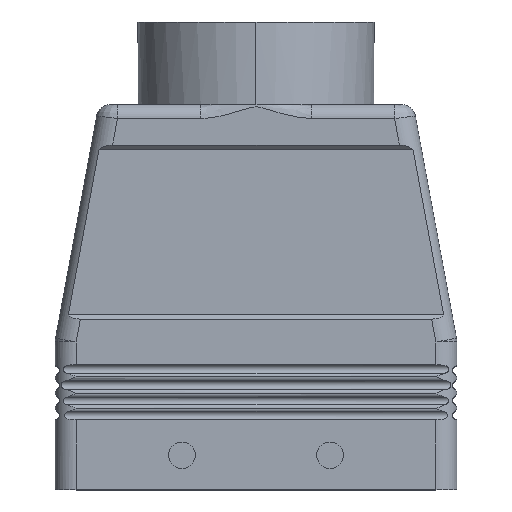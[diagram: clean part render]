
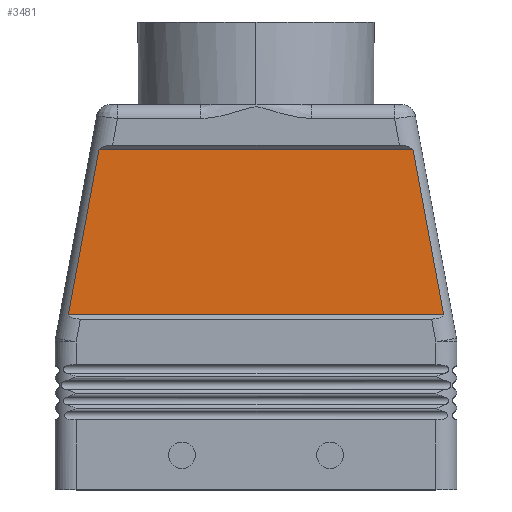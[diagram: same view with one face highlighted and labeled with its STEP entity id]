
A CAD part, top view. The second image highlights one B-rep face of the part: STEP entity #3481.
In plain terms, the highlighted planar face has unit normal (0, 0, 1).
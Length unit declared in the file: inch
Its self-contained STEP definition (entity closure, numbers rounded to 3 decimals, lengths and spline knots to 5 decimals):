
#2052 = VERTEX_POINT ( 'NONE', #8473 ) ;
#2054 = EDGE_CURVE ( 'NONE', #2055, #2052, #8472, .T. ) ;
#2055 = VERTEX_POINT ( 'NONE', #8447 ) ;
#2216 = EDGE_CURVE ( 'NONE', #2217, #2218, #5692, .T. ) ;
#2217 = VERTEX_POINT ( 'NONE', #5688 ) ;
#2218 = VERTEX_POINT ( 'NONE', #5687 ) ;
#3481 = ADVANCED_FACE ( 'NONE', ( #10789 ), #10763, .F. ) ;
#3482 = EDGE_LOOP ( 'NONE', ( #3483, #3484, #3486, #3487 ) ) ;
#3483 = ORIENTED_EDGE ( 'NONE', *, *, #2216, .T. ) ;
#3484 = ORIENTED_EDGE ( 'NONE', *, *, #3485, .T. ) ;
#3485 = EDGE_CURVE ( 'NONE', #2218, #2055, #10764, .T. ) ;
#3486 = ORIENTED_EDGE ( 'NONE', *, *, #2054, .T. ) ;
#3487 = ORIENTED_EDGE ( 'NONE', *, *, #3488, .T. ) ;
#3488 = EDGE_CURVE ( 'NONE', #2052, #2217, #10785, .T. ) ;
#5687 = CARTESIAN_POINT ( 'NONE',  ( -1.34265, 1.25, 0.81645 ) ) ;
#5688 = CARTESIAN_POINT ( 'NONE',  ( -1.12323, 2.435, 0.81645 ) ) ;
#5689 = DIRECTION ( 'NONE',  ( -0.182, -0.983, 0. ) ) ;
#5690 = VECTOR ( 'NONE', #5689, 39.37008 ) ;
#5691 = CARTESIAN_POINT ( 'NONE',  ( -1.07137, 2.71507, 0.81645 ) ) ;
#5692 = LINE ( 'NONE', #5691, #5690 ) ;
#8447 = CARTESIAN_POINT ( 'NONE',  ( 1.34265, 1.25, 0.81645 ) ) ;
#8448 = DIRECTION ( 'NONE',  ( -0.182, 0.983, 0. ) ) ;
#8449 = VECTOR ( 'NONE', #8448, 39.37008 ) ;
#8466 = CARTESIAN_POINT ( 'NONE',  ( 0.86288, 3.84107, 0.81645 ) ) ;
#8472 = LINE ( 'NONE', #8466, #8449 ) ;
#8473 = CARTESIAN_POINT ( 'NONE',  ( 1.12323, 2.435, 0.81645 ) ) ;
#10759 = DIRECTION ( 'NONE',  ( 0., 1., 0. ) ) ;
#10760 = DIRECTION ( 'NONE',  ( 0., 0., -1. ) ) ;
#10761 = CARTESIAN_POINT ( 'NONE',  ( -2.5, 2.465, 0.81645 ) ) ;
#10762 = AXIS2_PLACEMENT_3D ( 'NONE', #10761, #10760, #10759 ) ;
#10763 = PLANE ( 'NONE',  #10762 ) ;
#10764 = LINE ( 'NONE', #10788, #10787 ) ;
#10782 = DIRECTION ( 'NONE',  ( -1., 0., 0. ) ) ;
#10783 = VECTOR ( 'NONE', #10782, 39.37008 ) ;
#10784 = CARTESIAN_POINT ( 'NONE',  ( -1.11768, 2.435, 0.81645 ) ) ;
#10785 = LINE ( 'NONE', #10784, #10783 ) ;
#10786 = DIRECTION ( 'NONE',  ( 1., 0., 0. ) ) ;
#10787 = VECTOR ( 'NONE', #10786, 39.37008 ) ;
#10788 = CARTESIAN_POINT ( 'NONE',  ( 1.34821, 1.25, 0.81645 ) ) ;
#10789 = FACE_OUTER_BOUND ( 'NONE', #3482, .T. ) ;
